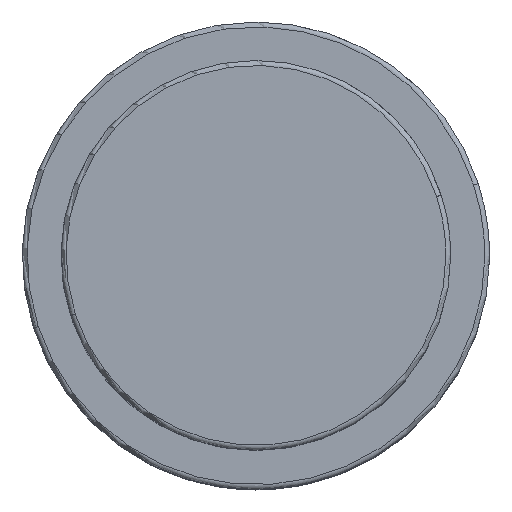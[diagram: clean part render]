
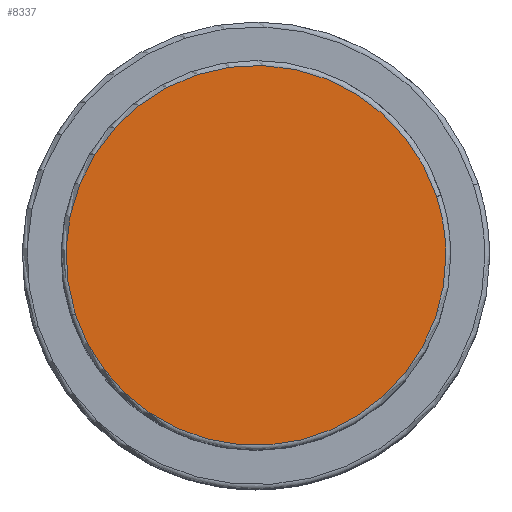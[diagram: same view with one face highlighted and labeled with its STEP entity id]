
A CAD part, top view. The second image highlights one B-rep face of the part: STEP entity #8337.
In plain terms, the highlighted planar face has unit normal (0, 0, 1).
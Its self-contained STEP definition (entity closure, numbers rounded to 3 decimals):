
#8270=CARTESIAN_POINT('',(18.546,6.026,38.5));
#8271=VERTEX_POINT('',#8270);
#8289=CARTESIAN_POINT('',(-18.546,-6.026,38.5));
#8290=VERTEX_POINT('',#8289);
#8298=CARTESIAN_POINT('',(0.0,0.0,38.5));
#8299=DIRECTION('',(0.0,0.0,1.0));
#8300=DIRECTION('',(1.0,0.0,0.0));
#8301=AXIS2_PLACEMENT_3D('',#8298,#8299,#8300);
#8302=CIRCLE('',#8301,19.5);
#8303=EDGE_CURVE('no 4179',#8271,#8290,#8302,.T.);
#8313=CARTESIAN_POINT('',(19.5,0.0,38.5));
#8314=VERTEX_POINT('',#8313);
#8315=CARTESIAN_POINT('',(0.0,0.0,38.5));
#8316=DIRECTION('',(0.0,0.0,1.0));
#8317=DIRECTION('',(1.0,0.0,0.0));
#8318=AXIS2_PLACEMENT_3D('',#8315,#8316,#8317);
#8319=CIRCLE('',#8318,19.5);
#8320=EDGE_CURVE('no 4188',#8314,#8271,#8319,.T.);
#8321=ORIENTED_EDGE('',*,*,#8320,.T.);
#8322=ORIENTED_EDGE('',*,*,#8303,.T.);
#8323=CARTESIAN_POINT('',(0.0,0.0,38.5));
#8324=DIRECTION('',(0.0,0.0,1.0));
#8325=DIRECTION('',(1.0,0.0,0.0));
#8326=AXIS2_PLACEMENT_3D('',#8323,#8324,#8325);
#8327=CIRCLE('',#8326,19.5);
#8328=EDGE_CURVE('no 4194',#8290,#8314,#8327,.T.);
#8329=ORIENTED_EDGE('',*,*,#8328,.T.);
#8330=EDGE_LOOP('',(#8321,#8322,#8329));
#8331=FACE_OUTER_BOUND('',#8330,.T.);
#8332=CARTESIAN_POINT('',(0.0,0.0,38.5));
#8333=DIRECTION('',(0.0,0.0,1.0));
#8334=DIRECTION('',(1.0,0.0,0.0));
#8335=AXIS2_PLACEMENT_3D('',#8332,#8333,#8334);
#8336=PLANE('',#8335);
#8337=ADVANCED_FACE('no 4181',(#8331),#8336,.T.);
